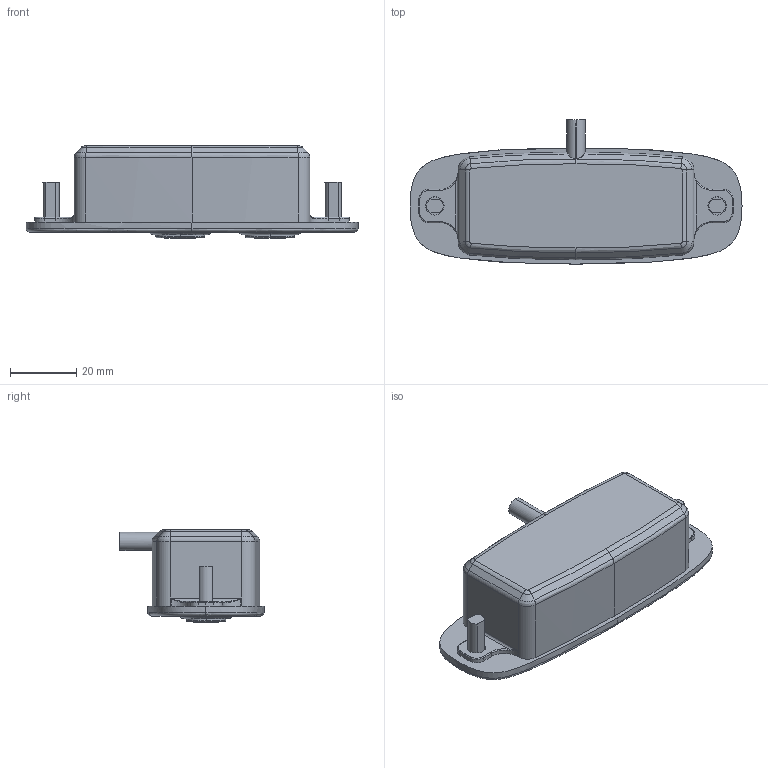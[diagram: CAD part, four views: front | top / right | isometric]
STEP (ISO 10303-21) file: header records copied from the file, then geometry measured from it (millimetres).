
FILE_DESCRIPTION (( 'STEP AP203' ), '1' );
FILE_NAME ('3D_TFH17-A.STEP', '2017-02-10T02:44:19', ( 'Phil Lee' ), ( 'Toshiba' ), 'SwSTEP 2.0', 'SolidWorks 2015', '' );
FILE_SCHEMA (( 'CONFIG_CONTROL_DESIGN' ));
Length unit declared in the file: millimetre
Products named in the file (1): 3D_TFH17-A
Bounding box: 100 x 43.39 x 27.88 mm (x, y, z)
Volume: 60249.9 mm3; surface area: 13851.8 mm2
Topology: 1 solids, 1 shells, 694 faces, 1732 edges, 1067 vertices
Faces by surface type: plane 300, cylinder 228, bspline 162, cone 4
Entity records: 29204 total; most frequent: CARTESIAN_POINT 13550, ORIENTED_EDGE 3456, DIRECTION 2887, EDGE_CURVE 1728, VERTEX_POINT 1067, LINE 1013, VECTOR 1013, AXIS2_PLACEMENT_3D 937
